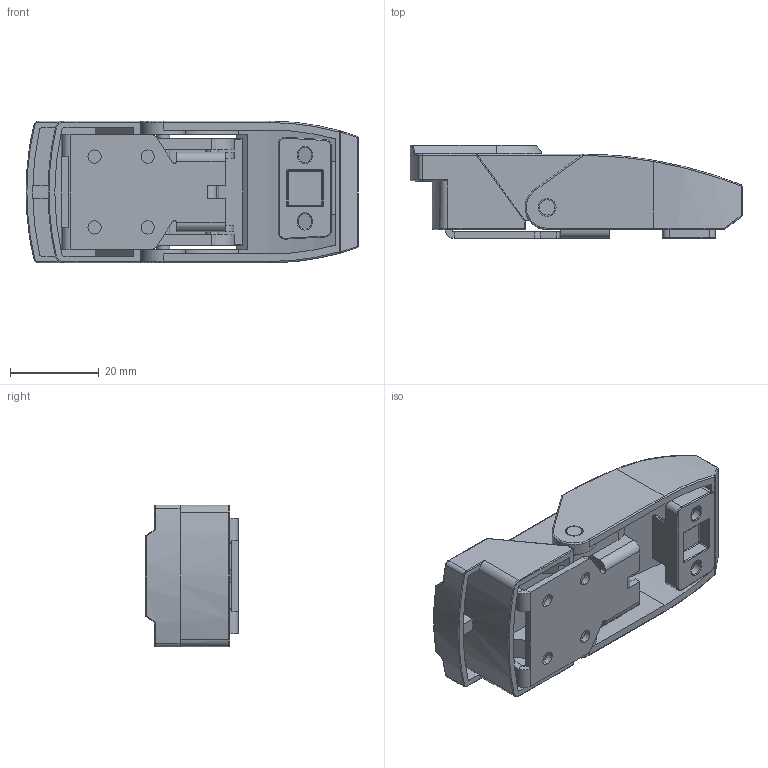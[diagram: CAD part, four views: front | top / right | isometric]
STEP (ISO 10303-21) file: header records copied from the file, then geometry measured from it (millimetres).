
FILE_DESCRIPTION (( 'STEP AP203' ), '1' );
FILE_NAME ('SK3-038BK.STEP', '2018-06-22T02:33:47', ( 'admin' ), ( 'Microsoft' ), 'SwSTEP 2.0', 'SolidWorks 2015', '' );
FILE_SCHEMA (( 'CONFIG_CONTROL_DESIGN' ));
Length unit declared in the file: millimetre
Products named in the file (7): SK3-038BK 嘐隅; SK3-038BK FU; SK3-038BK 菁釱; SK3-038BK 魂雄; SK3-038BK种隊酗; SK3-038BK种隊傻; SK3-038BK
Assembly tree (6 placements, depth 2):
  SK3-038BK
    SK3-038BK 嘐隅
    SK3-038BK FU
    SK3-038BK 菁釱
    SK3-038BK 魂雄
    SK3-038BK种隊酗
    SK3-038BK种隊傻
Bounding box: 75 x 21 x 32 mm (x, y, z)
Volume: 17965.3 mm3; surface area: 16294.3 mm2
Topology: 6 solids, 6 shells, 447 faces, 1070 edges, 618 vertices
Faces by surface type: cylinder 200, plane 146, torus 49, sphere 36, bspline 10, cone 6
Entity records: 13596 total; most frequent: DIRECTION 2401, CARTESIAN_POINT 2386, ORIENTED_EDGE 2080, EDGE_CURVE 1040, AXIS2_PLACEMENT_3D 947, VERTEX_POINT 616, LINE 507, VECTOR 507
